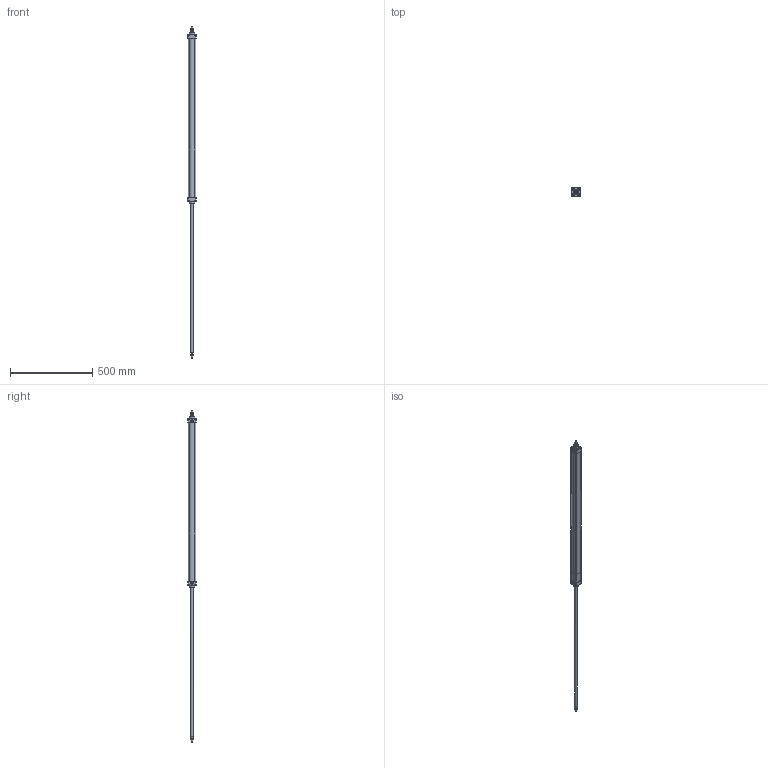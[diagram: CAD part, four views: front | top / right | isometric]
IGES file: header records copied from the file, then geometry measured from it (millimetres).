
Global section: file name: 130#_040_0900_02A; native system: Autodesk Inventor 2014; preprocessor: unknown; author: A. Manieri; date: 20161123.143841; units: millimetre
Bounding box: 52 x 52 x 2014 mm (x, y, z)
Volume: 1118312.7 mm3; surface area: 485472.3 mm2
Topology: 10 solids, 10 shells, 187 faces, 467 edges, 314 vertices
Faces by surface type: bspline 187
